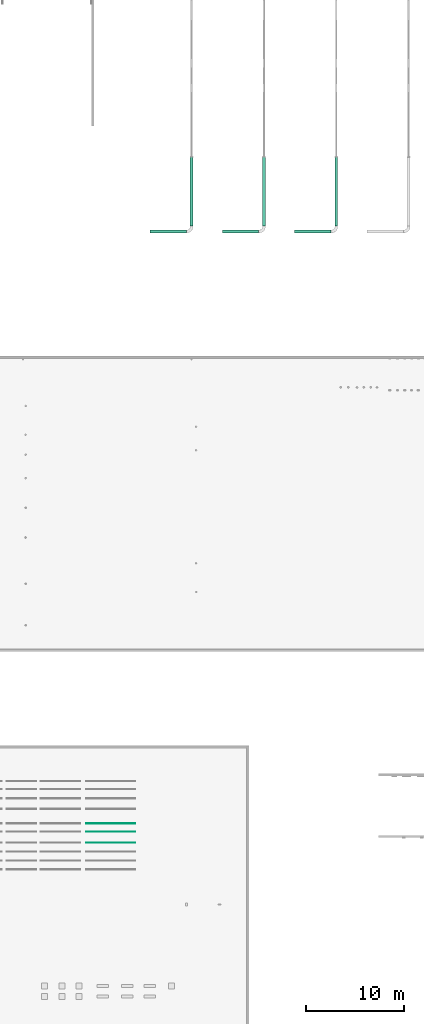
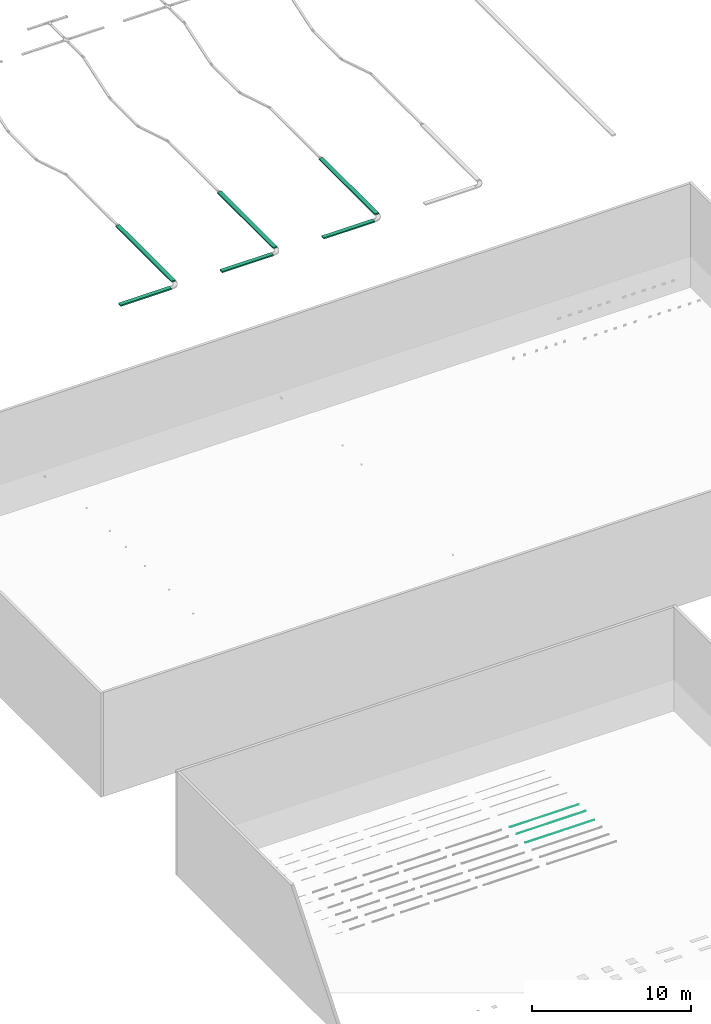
# One storey, part 10 of 197: 6 flow segments, 3 flow terminals.
"""IFC2X3 building model written with IfcOpenShell, lengths in metres."""

from ifc_helpers import new_model, entity, si_unit, converted_unit, direction, frame, frame_2d, origin, origin_2d_with_axis, place, context, subcontext, project, spatial, polyline, rectangle, circle, outline, extrude, source, transform, mapped, material, material_list, type_object, type_shapes, element, save


model = new_model("IFC2X3")

# Units and contexts
model_context = context("Model", 3, precision=1e-05, world=origin(), true_north=direction((6.123031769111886e-17, 1.0)))
body_context = subcontext(model_context, "Body", "Model", "MODEL_VIEW")
ifc_project = project(units=[si_unit("LENGTHUNIT", "METRE"), converted_unit("PLANEANGLEUNIT", "DEGREE", entity("IfcPlaneAngleMeasure", 0.017453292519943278), si_unit("PLANEANGLEUNIT", "RADIAN"), dimensions=[0, 0, 0, 0, 0, 0, 0]), si_unit("AREAUNIT", "SQUARE_METRE")], contexts=[model_context])

# Site, building, storey
site_placement = place(None, origin())
site = spatial("IfcSite", under=ifc_project, at=site_placement, Name="Default", CompositionType="ELEMENT")
building_placement = place(site_placement, origin())
building = spatial("IfcBuilding", under=site, at=building_placement, CompositionType="ELEMENT")
storey_placement = place(building_placement, origin())
storey = spatial("IfcBuildingStorey", under=building, at=storey_placement, Name="Niveau 0", CompositionType="ELEMENT", Elevation=0.0)

# Flow segments
cable_carrier_segment_type_1 = type_object("IfcCableCarrierSegmentType", Name="Chemin de câbles avec raccords:CDC CFA", PredefinedType="CABLETRAYSEGMENT")
flow_segment_1_placement = place(storey_placement, origin())
element("IfcFlowSegment", 1, at=flow_segment_1_placement, inside=storey, type_object=cable_carrier_segment_type_1, Name="Chemin de câbles avec raccords:CDC CFA", ObjectType="Chemin de câbles avec raccords:CDC CFA", context=body_context, shape_type="SweptSolid", body=[
    extrude(rectangle(XDim=3.7119999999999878, YDim=0.3000000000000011, at=frame_2d((0.0, -8.659739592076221e-15), x_axis=(1.0, 0.0))), frame((-512.5099800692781, 124.74551308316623, 2.6999999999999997), z_axis=(0.0, 0.0, 1.0), x_axis=(-1.0, 0.0, 0.0)), (0.0, 0.0, 1.0), 0.1),
])
flow_segment_2_placement = place(storey_placement, origin())
element("IfcFlowSegment", 2, at=flow_segment_2_placement, inside=storey, type_object=cable_carrier_segment_type_1, Name="Chemin de câbles avec raccords:CDC CFA", ObjectType="Chemin de câbles avec raccords:CDC CFA", context=body_context, shape_type="SweptSolid", body=[
    extrude(rectangle(XDim=7.041999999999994, YDim=0.3000000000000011, at=origin_2d_with_axis()), frame((-510.12398006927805, 128.79651308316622, 2.6999999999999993), z_axis=(0.0, 0.0, 1.0), x_axis=(0.0, 1.0, 0.0)), (0.0, 0.0, 1.0), 0.1),
])
cable_carrier_segment_type_2 = type_object("IfcCableCarrierSegmentType", Name="Chemin de câbles avec raccords:CDC CFO", PredefinedType="CABLETRAYSEGMENT")
flow_segment_3_placement = place(storey_placement, origin())
element("IfcFlowSegment", 3, at=flow_segment_3_placement, inside=storey, type_object=cable_carrier_segment_type_2, Name="Chemin de câbles avec raccords:CDC CFO", ObjectType="Chemin de câbles avec raccords:CDC CFO", context=body_context, shape_type="SweptSolid", body=[
    extrude(rectangle(XDim=3.7119999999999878, YDim=0.3000000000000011, at=frame_2d((0.0, -8.659739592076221e-15), x_axis=(1.0, 0.0))), frame((-505.1229800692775, 124.74551308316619, 2.6999999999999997), z_axis=(0.0, 0.0, 1.0), x_axis=(-1.0, 0.0, 0.0)), (0.0, 0.0, 1.0), 0.1),
])
flow_segment_4_placement = place(storey_placement, origin())
element("IfcFlowSegment", 4, at=flow_segment_4_placement, inside=storey, type_object=cable_carrier_segment_type_2, Name="Chemin de câbles avec raccords:CDC CFO", ObjectType="Chemin de câbles avec raccords:CDC CFO", context=body_context, shape_type="SweptSolid", body=[
    extrude(rectangle(XDim=7.041999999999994, YDim=0.3000000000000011, at=frame_2d((0.0, 6.93056723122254e-14), x_axis=(1.0, 0.0))), frame((-502.7369800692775, 128.7965130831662, 2.6999999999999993), z_axis=(0.0, 0.0, 1.0), x_axis=(0.0, 1.0, 0.0)), (0.0, 0.0, 1.0), 0.1),
])
cable_carrier_segment_type_3 = type_object("IfcCableCarrierSegmentType", Name="Chemin de câbles avec raccords:CDC INCENDIE", PredefinedType="CABLETRAYSEGMENT")
flow_segment_5_placement = place(storey_placement, origin())
element("IfcFlowSegment", 5, at=flow_segment_5_placement, inside=storey, type_object=cable_carrier_segment_type_3, Name="Chemin de câbles avec raccords:CDC INCENDIE", ObjectType="Chemin de câbles avec raccords:CDC INCENDIE", context=body_context, shape_type="SweptSolid", body=[
    extrude(rectangle(XDim=3.7119999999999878, YDim=0.3000000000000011, at=frame_2d((0.0, -8.659739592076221e-15), x_axis=(1.0, 0.0))), frame((-497.735980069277, 124.74551308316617, 2.6999999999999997), z_axis=(0.0, 0.0, 1.0), x_axis=(-1.0, 0.0, 0.0)), (0.0, 0.0, 1.0), 0.1),
])
flow_segment_6_placement = place(storey_placement, origin())
element("IfcFlowSegment", 6, at=flow_segment_6_placement, inside=storey, type_object=cable_carrier_segment_type_3, Name="Chemin de câbles avec raccords:CDC INCENDIE", ObjectType="Chemin de câbles avec raccords:CDC INCENDIE", context=body_context, shape_type="SweptSolid", body=[
    extrude(rectangle(XDim=7.041999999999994, YDim=0.3000000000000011, at=frame_2d((-1.7319479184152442e-14, 0.0), x_axis=(1.0, 0.0))), frame((-495.349980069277, 128.7965130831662, 2.6999999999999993), z_axis=(0.0, 0.0, 1.0), x_axis=(0.0, 1.0, 0.0)), (0.0, 0.0, 1.0), 0.1),
])

# Flow terminals
ifc_material_1 = material(Name="BETCE-DIFFUSEUR-BLANC")
ifc_material_2 = material(Name="<Unnamed>")
ifc_material_list = material_list([ifc_material_1, ifc_material_2])
light_fixture_type_1 = type_object("IfcLightFixtureType", Name="Profilé alu sailli_suspendu_engravure-20X20:PROF-SAILLIE -5M", PredefinedType="NOTDEFINED", material=ifc_material_list)
shared_shape_1 = source(origin(), body_context, "Body", "SweptSolid", [
    extrude(rectangle(XDim=4.9959999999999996, YDim=0.018935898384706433, at=origin_2d_with_axis()), frame((0.0, 0.0, 1.4999999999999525), z_axis=(0.0, 0.0, 1.0), x_axis=(-1.0, 0.0, 0.0)), (0.0, 0.0, 1.0), 0.0008000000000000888),
    extrude(outline(polyline([(0.004349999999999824, -0.009467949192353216), (0.0051499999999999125, -0.009467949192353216), (0.0051499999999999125, 0.009467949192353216), (0.004349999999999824, 0.009467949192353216), (0.004349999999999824, 0.010467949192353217), (-0.0138500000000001, 0.010467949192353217), (-0.0138500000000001, -0.010467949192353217), (0.004349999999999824, -0.010467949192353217), (0.004349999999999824, -0.009467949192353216)])), frame((2.4979999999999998, 0.0, 1.5051499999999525), z_axis=(1.0, 0.0, 0.0), x_axis=(0.0, 0.0, -1.0)), (0.0, 0.0, 1.0), 0.0020000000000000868),
    extrude(outline(polyline([(0.009467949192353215, -0.004349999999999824), (0.010467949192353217, -0.004349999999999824), (0.010467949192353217, 0.0138500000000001), (-0.010467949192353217, 0.0138500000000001), (-0.010467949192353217, -0.004349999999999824), (-0.009467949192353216, -0.004349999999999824), (-0.009467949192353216, -0.0051499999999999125), (0.009467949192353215, -0.0051499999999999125), (0.009467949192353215, -0.004349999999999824)])), frame((-2.4999999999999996, 0.0, 1.5051499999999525), z_axis=(1.0, 0.0, 0.0), x_axis=(0.0, 1.0, 0.0)), (0.0, 0.0, 1.0), 0.0020000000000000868),
    extrude(outline(polyline([(-0.012292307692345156, -0.011500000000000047), (0.007707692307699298, -0.011500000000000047), (0.007707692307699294, -0.009467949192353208), (0.0069076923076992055, -0.009467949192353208), (0.006907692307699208, -0.010467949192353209), (-0.011292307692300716, -0.010467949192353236), (-0.011292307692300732, 0.0), (-0.011292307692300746, 0.010467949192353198), (0.006907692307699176, 0.010467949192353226), (0.006907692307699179, 0.009467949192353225), (0.0077076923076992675, 0.009467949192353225), (0.007707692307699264, 0.011500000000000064), (-0.012292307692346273, 0.011500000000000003), (-0.012292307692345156, -0.011500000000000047)])), frame((-2.4999999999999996, 0.0, 1.5077076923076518), z_axis=(1.0, 0.0, 0.0), x_axis=(0.0, 0.0, -1.0)), (0.0, 0.0, 1.0), 4.999999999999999),
    extrude(circle(Radius=0.0019999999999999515, at=frame_2d((1.5388467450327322e-29, 0.0), x_axis=(1.0, 0.0))), frame((-2.3999999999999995, 0.0, 1.5199999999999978), z_axis=(0.0, 0.0, 1.0), x_axis=(0.0, -1.0, 0.0)), (0.0, 0.0, 1.0), 0.0010000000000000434),
    extrude(circle(Radius=0.0019999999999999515, at=frame_2d((-4.123551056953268e-20, 0.0), x_axis=(1.0, 0.0))), frame((2.4, 0.0, 1.5199999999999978), z_axis=(0.0, 0.0, 1.0), x_axis=(0.0, -1.0, 0.0)), (0.0, 0.0, 1.0), 0.0010000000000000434),
])
type_shapes(light_fixture_type_1, [shared_shape_1])
flow_terminal_1_placement = place(storey_placement, frame((-518.3697105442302, 64.29268111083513, 0.0)))
element("IfcFlowTerminal", 7, at=flow_terminal_1_placement, inside=storey, type_object=light_fixture_type_1, material=ifc_material_list, Name="Profilé alu sailli_suspendu_engravure-20X20:PROF-SAILLIE -5M", ObjectType="Profilé alu sailli_suspendu_engravure-20X20:PROF-SAILLIE -5M", context=body_context, shape_type="MappedRepresentation", body=[
    mapped(shared_shape_1, transform((0.0, 0.0, 0.0), scale=1.0)),
])
light_fixture_type_2 = type_object("IfcLightFixtureType", Name="Profilé alu sailli_suspendu_engravure-20X20:PROF-SAILLIE DALI -5M", PredefinedType="NOTDEFINED", material=ifc_material_list)
shared_shape_2 = source(origin(), body_context, "Body", "SweptSolid", [
    extrude(rectangle(XDim=4.9959999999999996, YDim=0.018935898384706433, at=origin_2d_with_axis()), frame((0.0, 0.0, 1.4999999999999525), z_axis=(0.0, 0.0, 1.0), x_axis=(-1.0, 0.0, 0.0)), (0.0, 0.0, 1.0), 0.0008000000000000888),
    extrude(outline(polyline([(0.004349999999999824, -0.009467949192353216), (0.0051499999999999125, -0.009467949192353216), (0.0051499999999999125, 0.009467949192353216), (0.004349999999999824, 0.009467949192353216), (0.004349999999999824, 0.010467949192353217), (-0.0138500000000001, 0.010467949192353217), (-0.0138500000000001, -0.010467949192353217), (0.004349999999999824, -0.010467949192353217), (0.004349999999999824, -0.009467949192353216)])), frame((2.4979999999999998, 0.0, 1.5051499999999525), z_axis=(1.0, 0.0, 0.0), x_axis=(0.0, 0.0, -1.0)), (0.0, 0.0, 1.0), 0.0020000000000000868),
    extrude(outline(polyline([(0.009467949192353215, -0.004349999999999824), (0.010467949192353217, -0.004349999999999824), (0.010467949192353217, 0.0138500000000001), (-0.010467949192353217, 0.0138500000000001), (-0.010467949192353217, -0.004349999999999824), (-0.009467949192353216, -0.004349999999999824), (-0.009467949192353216, -0.0051499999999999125), (0.009467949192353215, -0.0051499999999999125), (0.009467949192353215, -0.004349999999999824)])), frame((-2.4999999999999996, 0.0, 1.5051499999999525), z_axis=(1.0, 0.0, 0.0), x_axis=(0.0, 1.0, 0.0)), (0.0, 0.0, 1.0), 0.0020000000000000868),
    extrude(outline(polyline([(-0.012292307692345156, -0.011500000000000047), (0.007707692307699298, -0.011500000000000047), (0.007707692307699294, -0.009467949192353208), (0.0069076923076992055, -0.009467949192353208), (0.006907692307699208, -0.010467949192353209), (-0.011292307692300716, -0.010467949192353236), (-0.011292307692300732, 0.0), (-0.011292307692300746, 0.010467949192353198), (0.006907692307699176, 0.010467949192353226), (0.006907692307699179, 0.009467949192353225), (0.0077076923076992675, 0.009467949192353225), (0.007707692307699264, 0.011500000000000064), (-0.012292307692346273, 0.011500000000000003), (-0.012292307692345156, -0.011500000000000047)])), frame((-2.4999999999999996, 0.0, 1.5077076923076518), z_axis=(1.0, 0.0, 0.0), x_axis=(0.0, 0.0, -1.0)), (0.0, 0.0, 1.0), 4.999999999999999),
    extrude(circle(Radius=0.0019999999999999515, at=frame_2d((1.5388467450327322e-29, 0.0), x_axis=(1.0, 0.0))), frame((-2.3999999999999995, 0.0, 1.5199999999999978), z_axis=(0.0, 0.0, 1.0), x_axis=(0.0, -1.0, 0.0)), (0.0, 0.0, 1.0), 0.0010000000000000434),
    extrude(circle(Radius=0.0019999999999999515, at=frame_2d((-4.123551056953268e-20, 0.0), x_axis=(1.0, 0.0))), frame((2.4, 0.0, 1.5199999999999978), z_axis=(0.0, 0.0, 1.0), x_axis=(0.0, -1.0, 0.0)), (0.0, 0.0, 1.0), 0.0010000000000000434),
])
type_shapes(light_fixture_type_2, [shared_shape_2])
flow_terminal_2_placement = place(storey_placement, frame((-518.3697105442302, 63.44635524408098, 0.0)))
element("IfcFlowTerminal", 8, at=flow_terminal_2_placement, inside=storey, type_object=light_fixture_type_2, material=ifc_material_list, Name="Profilé alu sailli_suspendu_engravure-20X20:PROF-SAILLIE DALI -5M", ObjectType="Profilé alu sailli_suspendu_engravure-20X20:PROF-SAILLIE DALI -5M", context=body_context, shape_type="MappedRepresentation", body=[
    mapped(shared_shape_2, transform((0.0, 0.0, 0.0), scale=1.0)),
])
light_fixture_type_3 = type_object("IfcLightFixtureType", Name="Profilé alu sailli_suspendu_engravure-20X20:PROF-SUSPENDU -5M", PredefinedType="NOTDEFINED", material=ifc_material_list)
shared_shape_3 = source(origin(), body_context, "Body", "SweptSolid", [
    extrude(rectangle(XDim=4.9959999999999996, YDim=0.018935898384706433, at=origin_2d_with_axis()), frame((0.0, 0.0, 1.4999999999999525), z_axis=(0.0, 0.0, 1.0), x_axis=(-1.0, 0.0, 0.0)), (0.0, 0.0, 1.0), 0.0008000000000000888),
    extrude(outline(polyline([(0.004349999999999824, -0.009467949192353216), (0.0051499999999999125, -0.009467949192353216), (0.0051499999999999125, 0.009467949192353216), (0.004349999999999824, 0.009467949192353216), (0.004349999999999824, 0.010467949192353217), (-0.0138500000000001, 0.010467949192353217), (-0.0138500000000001, -0.010467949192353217), (0.004349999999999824, -0.010467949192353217), (0.004349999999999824, -0.009467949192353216)])), frame((2.4979999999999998, 0.0, 1.5051499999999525), z_axis=(1.0, 0.0, 0.0), x_axis=(0.0, 0.0, -1.0)), (0.0, 0.0, 1.0), 0.0020000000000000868),
    extrude(outline(polyline([(0.009467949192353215, -0.004349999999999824), (0.010467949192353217, -0.004349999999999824), (0.010467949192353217, 0.0138500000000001), (-0.010467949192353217, 0.0138500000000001), (-0.010467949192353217, -0.004349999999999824), (-0.009467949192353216, -0.004349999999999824), (-0.009467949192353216, -0.0051499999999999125), (0.009467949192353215, -0.0051499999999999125), (0.009467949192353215, -0.004349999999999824)])), frame((-2.4999999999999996, 0.0, 1.5051499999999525), z_axis=(1.0, 0.0, 0.0), x_axis=(0.0, 1.0, 0.0)), (0.0, 0.0, 1.0), 0.0020000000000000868),
    extrude(outline(polyline([(-0.012292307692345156, -0.011500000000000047), (0.007707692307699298, -0.011500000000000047), (0.007707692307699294, -0.009467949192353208), (0.0069076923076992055, -0.009467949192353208), (0.006907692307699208, -0.010467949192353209), (-0.011292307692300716, -0.010467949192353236), (-0.011292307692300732, 0.0), (-0.011292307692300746, 0.010467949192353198), (0.006907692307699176, 0.010467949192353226), (0.006907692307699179, 0.009467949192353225), (0.0077076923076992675, 0.009467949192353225), (0.007707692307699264, 0.011500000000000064), (-0.012292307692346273, 0.011500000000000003), (-0.012292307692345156, -0.011500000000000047)])), frame((-2.4999999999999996, 0.0, 1.5077076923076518), z_axis=(1.0, 0.0, 0.0), x_axis=(0.0, 0.0, -1.0)), (0.0, 0.0, 1.0), 4.999999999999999),
    extrude(circle(Radius=0.0019999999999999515, at=frame_2d((1.5388467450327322e-29, 0.0), x_axis=(1.0, 0.0))), frame((-2.3999999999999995, 0.0, 1.5199999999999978), z_axis=(0.0, 0.0, 1.0), x_axis=(0.0, -1.0, 0.0)), (0.0, 0.0, 1.0), 0.0010000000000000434),
    extrude(circle(Radius=0.0019999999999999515, at=frame_2d((-4.123551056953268e-20, 0.0), x_axis=(1.0, 0.0))), frame((2.4, 0.0, 1.5199999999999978), z_axis=(0.0, 0.0, 1.0), x_axis=(0.0, -1.0, 0.0)), (0.0, 0.0, 1.0), 0.0010000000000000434),
])
type_shapes(light_fixture_type_3, [shared_shape_3])
flow_terminal_3_placement = place(storey_placement, frame((-518.3697105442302, 62.331355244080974, 0.0)))
element("IfcFlowTerminal", 9, at=flow_terminal_3_placement, inside=storey, type_object=light_fixture_type_3, material=ifc_material_list, Name="Profilé alu sailli_suspendu_engravure-20X20:PROF-SUSPENDU -5M", ObjectType="Profilé alu sailli_suspendu_engravure-20X20:PROF-SUSPENDU -5M", context=body_context, shape_type="MappedRepresentation", body=[
    mapped(shared_shape_3, transform((0.0, 0.0, 0.0), scale=1.0)),
])

save(model, "model.ifc")
